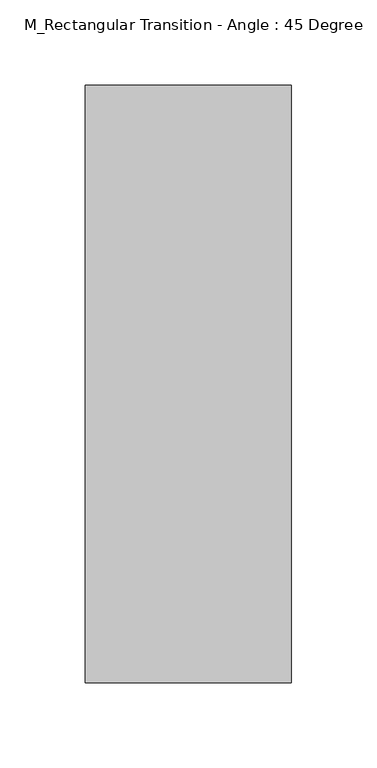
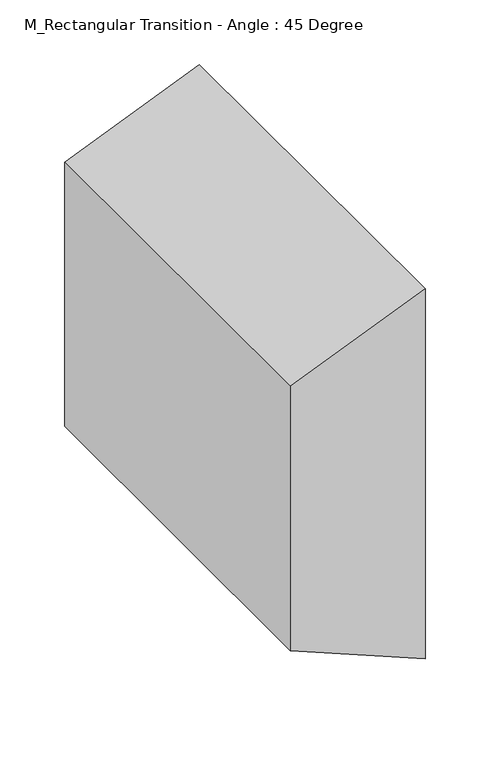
"""IFC4 building model written with IfcOpenShell, lengths in millimetres: duct fitting geometry, M_Rectangular Transition - Angle : 45 Degree."""

from ifc_helpers import new_model, si_unit, frame, origin, place, context, project, spatial, polyline, outline, extrude, source, transform, mapped, element, save


def m_rectangular_transition_angle_45_degree_59598e1c(model_context):
    return source(origin(), model_context, "Body", "SweptSolid", [
        extrude(outline(polyline([(-125.0, 0.0), (125.0, 0.0), (175.0, -120.7106781), (-175.0, -120.7106781), (-125.0, 0.0)])), frame((0.0, -175.0, 0.0), z_axis=(-2.2180216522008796e-12, 1.0, 0.0), x_axis=(0.0, 0.0, -1.0)), (0.0, 0.0, 1.0), 350.0),
        extrude(outline(polyline([(125.0, 0.0), (-125.0, 0.0), (-175.0, 120.7106781), (175.0, 120.7106781), (125.0, 0.0)])), frame((0.0, -175.0, 0.0), z_axis=(0.0, 1.0, 0.0), x_axis=(0.0, 0.0, 1.0)), (0.0, 0.0, 1.0), 350.0),
        extrude(outline(polyline([(125.0, 0.0), (-125.0, 0.0), (-175.0, 120.7106781), (175.0, 120.7106781), (125.0, 0.0)])), frame((0.0, -175.0, 0.0), z_axis=(0.0, 1.0, 0.0), x_axis=(0.0, 0.0, 1.0)), (0.0, 0.0, 1.0), 350.0),
    ])


if __name__ == "__main__":
    model = new_model("IFC4")
    model_context = context("Model", 3, world=origin())
    ifc_project = project(units=[si_unit("LENGTHUNIT", "METRE", prefix="MILLI")], contexts=[model_context])
    site = spatial("IfcSite", under=ifc_project)
    building = spatial("IfcBuilding", under=site)
    placement = place(None, origin())
    m_rectangular_transition_angle_45_degree_shape = m_rectangular_transition_angle_45_degree_59598e1c(model_context)
    element("IfcDuctFitting", 1, ObjectType="M_Rectangular Transition - Angle : 45 Degree", at=placement, inside=building, context=model_context, shape_type="MappedRepresentation", body=[
        mapped(m_rectangular_transition_angle_45_degree_shape, transform((0.0, 0.0, 0.0), x_axis=(1.0, 0.0, 0.0), y_axis=(0.0, 1.0, 0.0), z_axis=(0.0, 0.0, 1.0))),
    ])
    save(model, "model.ifc")
